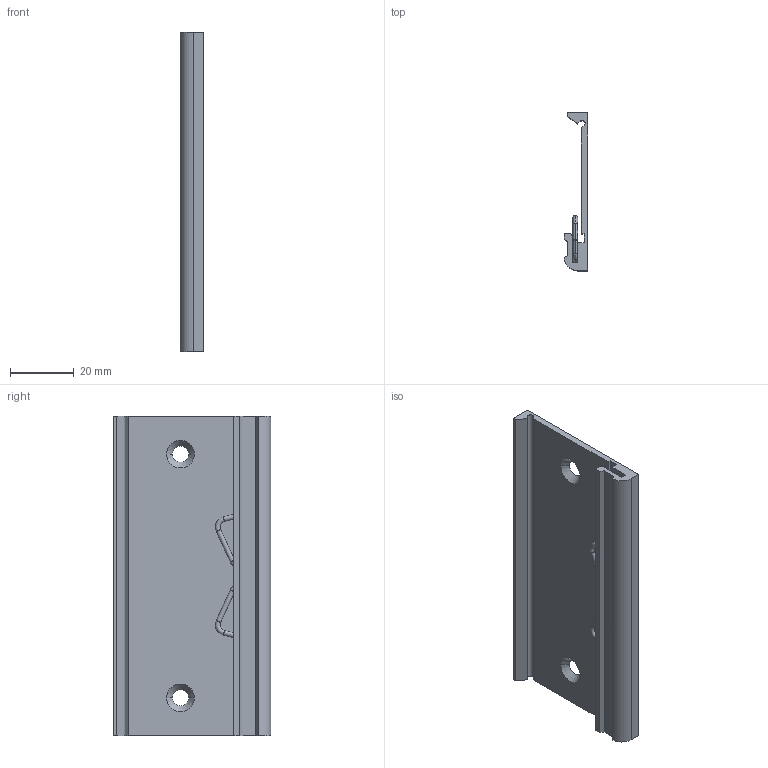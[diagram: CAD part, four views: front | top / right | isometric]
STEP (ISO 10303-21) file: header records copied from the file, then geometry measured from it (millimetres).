
FILE_DESCRIPTION((''),'2;1');
FILE_NAME('CU_CFP_CLIP_DIN_RAIL','2016-02-15T',('dkendric'),(''),'PRO/ENGINEER BY PARAMETRIC TECHNOLOGY CORPORATION, 2015280','PRO/ENGINEER BY PARAMETRIC TECHNOLOGY CORPORATION, 2015280','');
FILE_SCHEMA(('CONFIG_CONTROL_DESIGN'));
Length unit declared in the file: inch
Products named in the file (1): CU_CFP_CLIP_DIN_RAIL
Bounding box: 7.49 x 49.28 x 100 mm (x, y, z)
Volume: 13957.6 mm3; surface area: 14721.5 mm2
Topology: 2 solids, 2 shells, 52 faces, 124 edges, 76 vertices
Faces by surface type: plane 23, cylinder 15, torus 10, cone 4
Entity records: 1542 total; most frequent: DIRECTION 276, CARTESIAN_POINT 252, ORIENTED_EDGE 248, EDGE_CURVE 124, AXIS2_PLACEMENT_3D 100, VECTOR 76, LINE 76, VERTEX_POINT 76
